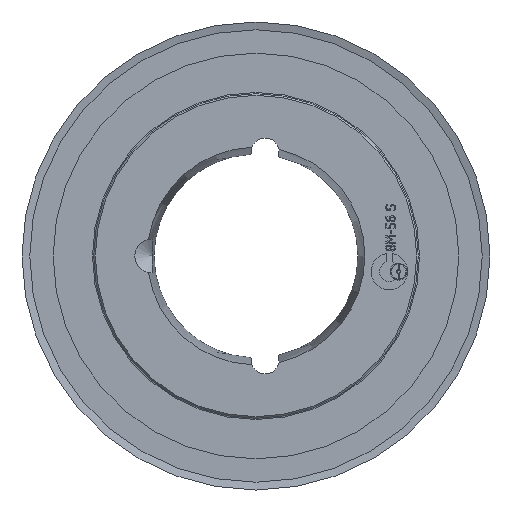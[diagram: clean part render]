
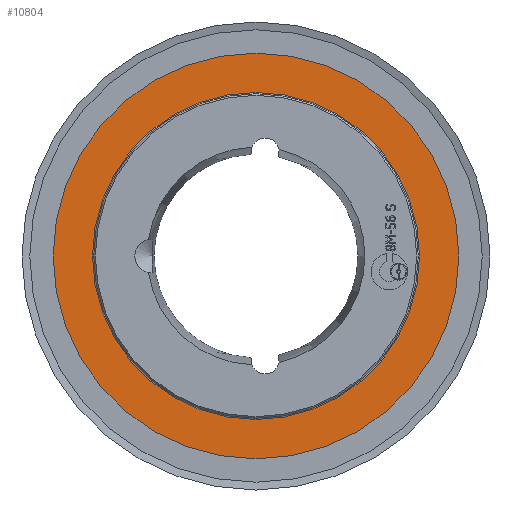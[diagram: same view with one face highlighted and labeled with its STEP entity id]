
A CAD part, left-side view. The second image highlights one B-rep face of the part: STEP entity #10804.
In plain terms, the highlighted planar face has unit normal (-1, 0, 0).
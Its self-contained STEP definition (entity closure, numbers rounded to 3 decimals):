
#858=CIRCLE('',#11909,52.4);
#859=CIRCLE('',#11911,65.);
#882=FACE_BOUND('',#2073,.T.);
#1500=FACE_OUTER_BOUND('',#2072,.T.);
#2072=EDGE_LOOP('',(#9923));
#2073=EDGE_LOOP('',(#9924));
#5111=VERTEX_POINT('',#19288);
#5112=VERTEX_POINT('',#19292);
#6716=EDGE_CURVE('',#5111,#5111,#858,.T.);
#6717=EDGE_CURVE('',#5112,#5112,#859,.T.);
#9923=ORIENTED_EDGE('',*,*,#6717,.F.);
#9924=ORIENTED_EDGE('',*,*,#6716,.T.);
#10156=PLANE('',#11910);
#10804=ADVANCED_FACE('',(#1500,#882),#10156,.T.);
#11909=AXIS2_PLACEMENT_3D('',#19290,#14901,#14902);
#11910=AXIS2_PLACEMENT_3D('',#19291,#14903,#14904);
#11911=AXIS2_PLACEMENT_3D('',#19293,#14905,#14906);
#14901=DIRECTION('center_axis',(1.,0.,0.));
#14902=DIRECTION('ref_axis',(0.,0.,-1.));
#14903=DIRECTION('center_axis',(-1.,0.,0.));
#14904=DIRECTION('ref_axis',(0.,0.,1.));
#14905=DIRECTION('center_axis',(1.,0.,0.));
#14906=DIRECTION('ref_axis',(0.,0.,-1.));
#19288=CARTESIAN_POINT('',(2.,0.,52.4));
#19290=CARTESIAN_POINT('Origin',(2.,0.,0.));
#19291=CARTESIAN_POINT('Origin',(2.,65.,0.));
#19292=CARTESIAN_POINT('',(2.,-65.,0.));
#19293=CARTESIAN_POINT('Origin',(2.,0.,0.));
